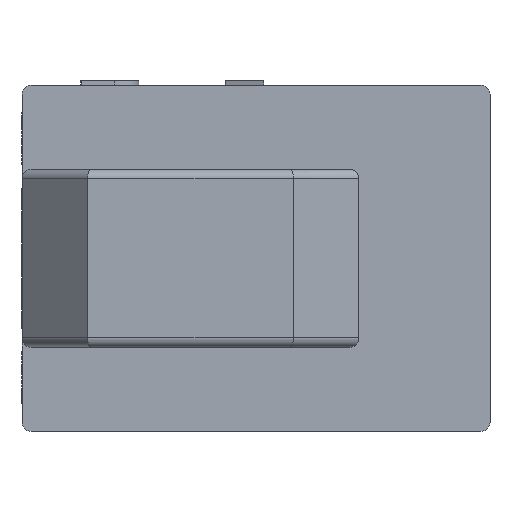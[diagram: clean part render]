
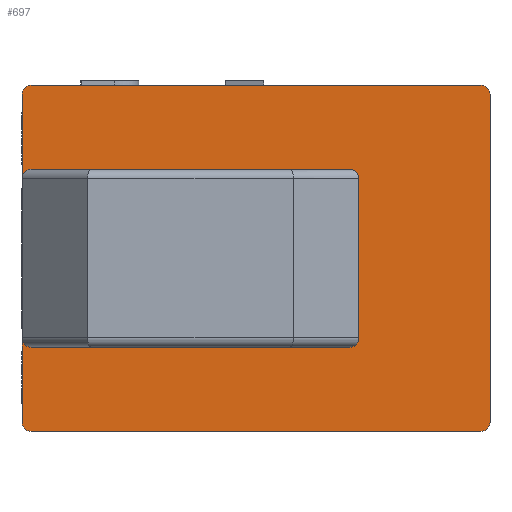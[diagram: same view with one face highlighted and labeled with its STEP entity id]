
A CAD part, left-side view. The second image highlights one B-rep face of the part: STEP entity #697.
In plain terms, the highlighted planar face has unit normal (-1, 0, 0).
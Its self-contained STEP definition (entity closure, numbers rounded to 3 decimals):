
#99=CARTESIAN_POINT('',(0.0,10.9,-9.5));
#100=VERTEX_POINT('',#99);
#107=CARTESIAN_POINT('',(0.0,15.9,-4.5));
#108=VERTEX_POINT('',#107);
#109=CARTESIAN_POINT('',(0.,15.9,-9.5));
#110=DIRECTION('',(1.,0.,0.));
#111=DIRECTION('',(0.,-0.707,0.707));
#112=AXIS2_PLACEMENT_3D('',#109,#110,#111);
#113=CIRCLE('',#112,5.);
#114=EDGE_CURVE('',#100,#108,#113,.F.);
#139=CARTESIAN_POINT('',(0.0,10.9,-14.));
#140=VERTEX_POINT('',#139);
#147=CARTESIAN_POINT('',(0.0,10.9,-9.5));
#148=DIRECTION('',(0.0,0.0,-1.0));
#149=VECTOR('',#148,4.5);
#150=LINE('',#147,#149);
#151=EDGE_CURVE('',#100,#140,#150,.T.);
#172=CARTESIAN_POINT('',(0.0,21.1,-9.));
#173=VERTEX_POINT('',#172);
#180=CARTESIAN_POINT('',(0.0,16.1,-14.));
#181=VERTEX_POINT('',#180);
#182=CARTESIAN_POINT('',(0.0,16.1,-9.));
#183=DIRECTION('',(1.0,0.0,0.0));
#184=DIRECTION('',(0.0,0.707,-0.707));
#185=AXIS2_PLACEMENT_3D('',#182,#183,#184);
#186=CIRCLE('',#185,5.0);
#187=EDGE_CURVE('',#173,#181,#186,.F.);
#212=CARTESIAN_POINT('',(0.0,21.1,-4.5));
#213=VERTEX_POINT('',#212);
#220=CARTESIAN_POINT('',(0.0,21.1,-4.5));
#221=DIRECTION('',(0.0,0.0,-1.0));
#222=VECTOR('',#221,4.5);
#223=LINE('',#220,#222);
#224=EDGE_CURVE('',#213,#173,#223,.T.);
#365=CARTESIAN_POINT('',(0.0,0.0,-18.0));
#366=VERTEX_POINT('',#365);
#367=CARTESIAN_POINT('',(0.0,0.5,-18.5));
#368=VERTEX_POINT('',#367);
#369=CARTESIAN_POINT('',(0.0,0.5,-18.0));
#370=DIRECTION('',(1.0,0.0,0.0));
#371=DIRECTION('',(0.0,-0.707,-0.707));
#372=AXIS2_PLACEMENT_3D('',#369,#370,#371);
#373=CIRCLE('',#372,0.5);
#374=EDGE_CURVE('',#366,#368,#373,.T.);
#603=CARTESIAN_POINT('',(0.0,24.5,-18.5));
#604=VERTEX_POINT('',#603);
#605=CARTESIAN_POINT('',(0.0,24.5,-18.5));
#606=DIRECTION('',(0.0,-1.0,0.0));
#607=VECTOR('',#606,24.0);
#608=LINE('',#605,#607);
#609=EDGE_CURVE('',#604,#368,#608,.T.);
#621=CARTESIAN_POINT('',(0.0,25.0,0.0));
#622=DIRECTION('',(-1.0,0.0,0.0));
#623=DIRECTION('',(0.0,0.0,1.0));
#624=AXIS2_PLACEMENT_3D('',#621,#622,#623);
#625=PLANE('',#624);
#626=ORIENTED_EDGE('',*,*,#374,.F.);
#627=CARTESIAN_POINT('',(0.0,0.0,-0.5));
#628=VERTEX_POINT('',#627);
#629=CARTESIAN_POINT('',(0.0,0.0,-0.5));
#630=DIRECTION('',(0.0,0.0,-1.0));
#631=VECTOR('',#630,17.5);
#632=LINE('',#629,#631);
#633=EDGE_CURVE('',#628,#366,#632,.T.);
#634=ORIENTED_EDGE('',*,*,#633,.F.);
#635=CARTESIAN_POINT('',(0.0,0.5,0.0));
#636=VERTEX_POINT('',#635);
#637=CARTESIAN_POINT('',(0.0,0.5,-0.5));
#638=DIRECTION('',(1.,0.0,0.0));
#639=DIRECTION('',(0.0,-0.707,0.707));
#640=AXIS2_PLACEMENT_3D('',#637,#638,#639);
#641=CIRCLE('',#640,0.5);
#642=EDGE_CURVE('',#636,#628,#641,.T.);
#643=ORIENTED_EDGE('',*,*,#642,.F.);
#644=CARTESIAN_POINT('',(0.0,24.5,0.0));
#645=VERTEX_POINT('',#644);
#646=CARTESIAN_POINT('',(0.0,24.5,0.0));
#647=DIRECTION('',(0.0,-1.0,0.0));
#648=VECTOR('',#647,24.0);
#649=LINE('',#646,#648);
#650=EDGE_CURVE('',#645,#636,#649,.T.);
#651=ORIENTED_EDGE('',*,*,#650,.F.);
#652=CARTESIAN_POINT('',(0.0,25.0,-0.5));
#653=VERTEX_POINT('',#652);
#654=CARTESIAN_POINT('',(0.0,24.5,-0.5));
#655=DIRECTION('',(1.0,0.0,0.0));
#656=DIRECTION('',(0.0,0.707,0.707));
#657=AXIS2_PLACEMENT_3D('',#654,#655,#656);
#658=CIRCLE('',#657,0.5);
#659=EDGE_CURVE('',#653,#645,#658,.T.);
#660=ORIENTED_EDGE('',*,*,#659,.F.);
#661=CARTESIAN_POINT('',(0.0,25.0,-18.0));
#662=VERTEX_POINT('',#661);
#663=CARTESIAN_POINT('',(0.0,25.0,-0.5));
#664=DIRECTION('',(0.0,0.0,-1.0));
#665=VECTOR('',#664,17.5);
#666=LINE('',#663,#665);
#667=EDGE_CURVE('',#653,#662,#666,.T.);
#668=ORIENTED_EDGE('',*,*,#667,.T.);
#669=CARTESIAN_POINT('',(0.0,24.5,-18.0));
#670=DIRECTION('',(1.0,0.0,0.0));
#671=DIRECTION('',(0.0,0.707,-0.707));
#672=AXIS2_PLACEMENT_3D('',#669,#670,#671);
#673=CIRCLE('',#672,0.5);
#674=EDGE_CURVE('',#604,#662,#673,.T.);
#675=ORIENTED_EDGE('',*,*,#674,.F.);
#676=ORIENTED_EDGE('',*,*,#609,.T.);
#677=EDGE_LOOP('',(#626,#634,#643,#651,#660,#668,#675,#676));
#678=FACE_OUTER_BOUND('',#677,.T.);
#679=CARTESIAN_POINT('',(0.0,21.1,-4.5));
#680=DIRECTION('',(0.0,-1.0,0.0));
#681=VECTOR('',#680,5.2);
#682=LINE('',#679,#681);
#683=EDGE_CURVE('',#213,#108,#682,.T.);
#684=ORIENTED_EDGE('',*,*,#683,.T.);
#685=ORIENTED_EDGE('',*,*,#114,.F.);
#686=ORIENTED_EDGE('',*,*,#151,.T.);
#687=CARTESIAN_POINT('',(0.0,10.9,-14.));
#688=DIRECTION('',(0.0,1.0,0.0));
#689=VECTOR('',#688,5.2);
#690=LINE('',#687,#689);
#691=EDGE_CURVE('',#140,#181,#690,.T.);
#692=ORIENTED_EDGE('',*,*,#691,.T.);
#693=ORIENTED_EDGE('',*,*,#187,.F.);
#694=ORIENTED_EDGE('',*,*,#224,.F.);
#695=EDGE_LOOP('',(#684,#685,#686,#692,#693,#694));
#696=FACE_BOUND('',#695,.T.);
#697=ADVANCED_FACE('',(#678,#696),#625,.T.);
